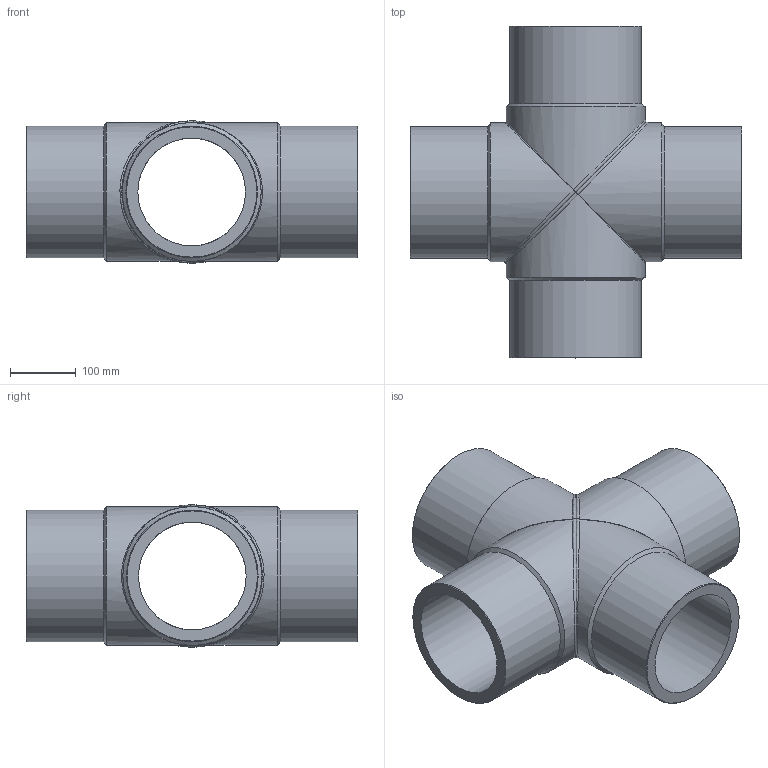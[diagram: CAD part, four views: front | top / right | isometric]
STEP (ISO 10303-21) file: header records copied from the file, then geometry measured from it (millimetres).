
FILE_DESCRIPTION(/* description */ ('Unknown'),/* implementation_level */ '2;1');
FILE_NAME(/* name */ 'CRP200C',/* time_stamp */ '2022-07-07T17:06:33+02:00',/* author */ ('Unknown'),/* organization */ ('Unknown'),/* preprocessor_version */ 'ST-DEVELOPER v18.102',/* originating_system */ 'Solid Edge',/* authorisation */ 'Unknown');
FILE_SCHEMA (('AUTOMOTIVE_DESIGN {1 0 10303 214 3 1 1}'));
Length unit declared in the file: millimetre
Products named in the file (3): CRP200C; CRP200C_mir
Assembly tree (2 placements, depth 2):
  CRP200C
    CRP200C
    CRP200C_mir
Bounding box: 504 x 504 x 215.99 mm (x, y, z)
Volume: 9013351.9 mm3; surface area: 973219.6 mm2
Topology: 2 solids, 2 shells, 32 faces, 88 edges, 58 vertices
Faces by surface type: cylinder 12, cone 8, plane 6, bspline 6
Full cylindrical faces by diameter (mm): 163.6 x4, 200 x4, 211 x4
Entity records: 3425 total; most frequent: CARTESIAN_POINT 2707, DIRECTION 126, ORIENTED_EDGE 116, AXIS2_PLACEMENT_3D 63, EDGE_CURVE 58, EDGE_LOOP 58, FACE_BOUND 58, VERTEX_POINT 48
